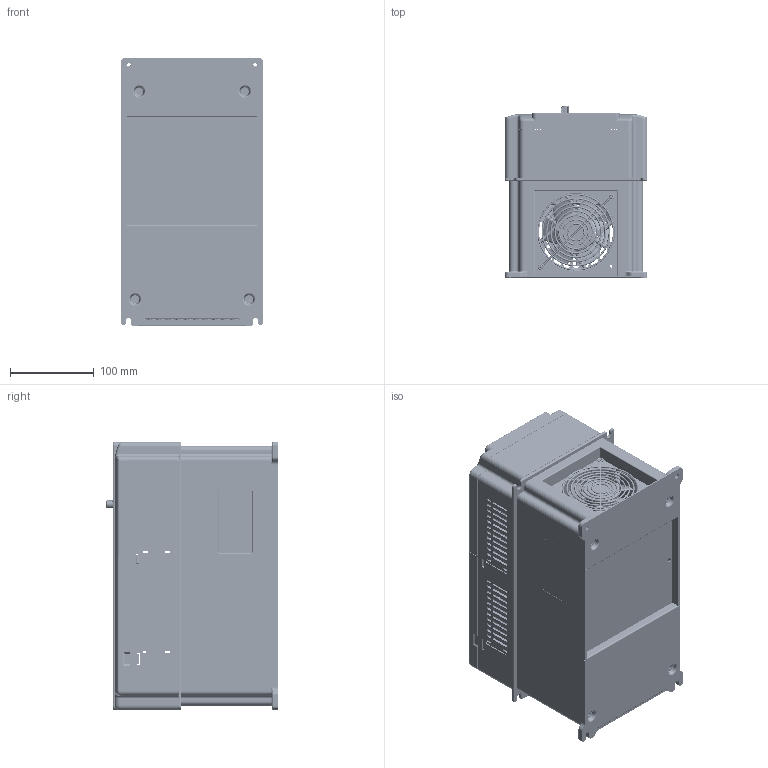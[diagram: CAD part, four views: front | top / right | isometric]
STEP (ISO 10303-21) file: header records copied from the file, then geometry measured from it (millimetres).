
FILE_DESCRIPTION((''),'2;1');
FILE_NAME('CH-LD100-015G-4_ASM','2016-12-13T',('Administrator'),(''),'PRO/ENGINEER BY PARAMETRIC TECHNOLOGY CORPORATION, 2010100','PRO/ENGINEER BY PARAMETRIC TECHNOLOGY CORPORATION, 2010100','');
FILE_SCHEMA(('CONFIG_CONTROL_DESIGN'));
Products named in the file (18): 80740009; 80740047; 2-21-19-092; FENGSHANWANG; 80310003; 80480008; S-M4-ZC; 80480008_ASM; 39004-00040; 39004-00044; 80810007; 80810010; 80710012; LD100-JP-PCB; 80740127; GD100-JP_ASM; 80810020; CH-LD100-015G-4_ASM
Assembly tree (21 placements, depth 3):
  CH-LD100-015G-4_ASM
    80740009
    80740047
    2-21-19-092
    FENGSHANWANG
    80310003
    80480008_ASM
      80480008
      S-M4-ZC  x3
    39004-00040  x2
    39004-00044  x2
    80810007
    GD100-JP_ASM
      80810010
      80710012
      LD100-JP-PCB
      80740127
    80810020
Bounding box: 170 x 204.15 x 320 mm (x, y, z)
Volume: 1187522.1 mm3; surface area: 1040442.6 mm2
Topology: 19 solids, 19 shells, 8175 faces, 23139 edges, 15009 vertices
Faces by surface type: plane 5386, cylinder 1543, extrusion 425, torus 291, cone 285, bspline 221, revolution 16, sphere 8
Entity records: 276361 total; most frequent: CARTESIAN_POINT 70351, ORIENTED_EDGE 44938, DIRECTION 39423, EDGE_CURVE 22469, VECTOR 16945, LINE 16520, VERTEX_POINT 14573, AXIS2_PLACEMENT_3D 11231
